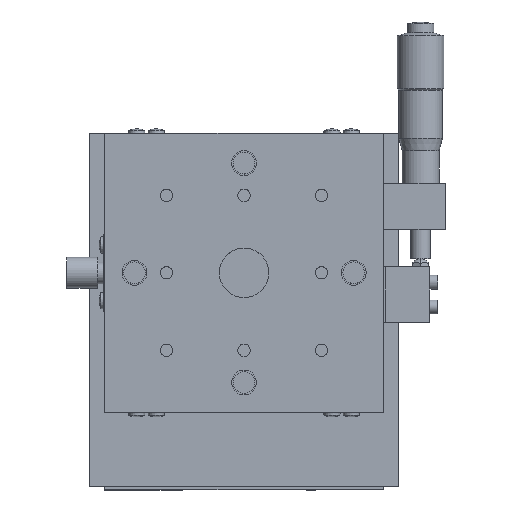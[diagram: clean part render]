
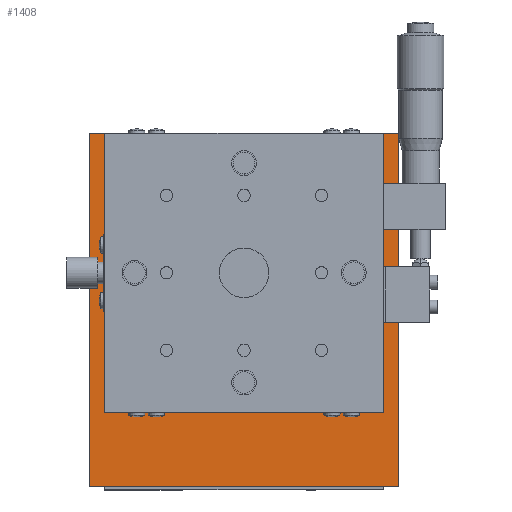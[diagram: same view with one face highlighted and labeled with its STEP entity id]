
A CAD part, top view. The second image highlights one B-rep face of the part: STEP entity #1408.
In plain terms, the highlighted planar face has unit normal (0, 0, 1).
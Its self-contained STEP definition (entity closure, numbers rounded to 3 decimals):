
#598 = VERTEX_POINT ( 'NONE', #5058 ) ;
#661 = EDGE_CURVE ( 'NONE', #1358, #598, #5205, .T. ) ;
#1355 = VERTEX_POINT ( 'NONE', #6495 ) ;
#1357 = EDGE_CURVE ( 'NONE', #1358, #1355, #6494, .T. ) ;
#1358 = VERTEX_POINT ( 'NONE', #6490 ) ;
#1408 = ADVANCED_FACE ( 'NONE', ( #6598 ), #6597, .F. ) ;
#1409 = EDGE_LOOP ( 'NONE', ( #1410, #1479, #1480, #1483, #1486, #1488, #1489, #1548 ) ) ;
#1410 = ORIENTED_EDGE ( 'NONE', *, *, #661, .F. ) ;
#1433 = VERTEX_POINT ( 'NONE', #6619 ) ;
#1435 = EDGE_CURVE ( 'NONE', #1436, #1433, #6618, .T. ) ;
#1436 = VERTEX_POINT ( 'NONE', #6614 ) ;
#1479 = ORIENTED_EDGE ( 'NONE', *, *, #1357, .T. ) ;
#1480 = ORIENTED_EDGE ( 'NONE', *, *, #1481, .T. ) ;
#1481 = EDGE_CURVE ( 'NONE', #1355, #1482, #6731, .T. ) ;
#1482 = VERTEX_POINT ( 'NONE', #6727 ) ;
#1483 = ORIENTED_EDGE ( 'NONE', *, *, #1484, .F. ) ;
#1484 = EDGE_CURVE ( 'NONE', #1485, #1482, #6726, .T. ) ;
#1485 = VERTEX_POINT ( 'NONE', #6722 ) ;
#1486 = ORIENTED_EDGE ( 'NONE', *, *, #1487, .F. ) ;
#1487 = EDGE_CURVE ( 'NONE', #1436, #1485, #6721, .T. ) ;
#1488 = ORIENTED_EDGE ( 'NONE', *, *, #1435, .T. ) ;
#1489 = ORIENTED_EDGE ( 'NONE', *, *, #1490, .F. ) ;
#1490 = EDGE_CURVE ( 'NONE', #1491, #1433, #6717, .T. ) ;
#1491 = VERTEX_POINT ( 'NONE', #6713 ) ;
#1548 = ORIENTED_EDGE ( 'NONE', *, *, #1549, .F. ) ;
#1549 = EDGE_CURVE ( 'NONE', #598, #1491, #6853, .T. ) ;
#5058 = CARTESIAN_POINT ( 'NONE',  ( -45., 25., 23.5 ) ) ;
#5202 = DIRECTION ( 'NONE',  ( 0., -1., 0. ) ) ;
#5203 = VECTOR ( 'NONE', #5202, 1000. ) ;
#5204 = CARTESIAN_POINT ( 'NONE',  ( -45., 115., 23.5 ) ) ;
#5205 = LINE ( 'NONE', #5204, #5203 ) ;
#6490 = CARTESIAN_POINT ( 'NONE',  ( -45., 115., 23.5 ) ) ;
#6491 = DIRECTION ( 'NONE',  ( -1., 0., 0. ) ) ;
#6492 = VECTOR ( 'NONE', #6491, 1000. ) ;
#6493 = CARTESIAN_POINT ( 'NONE',  ( 50., 115., 23.5 ) ) ;
#6494 = LINE ( 'NONE', #6493, #6492 ) ;
#6495 = CARTESIAN_POINT ( 'NONE',  ( -50., 115., 23.5 ) ) ;
#6593 = DIRECTION ( 'NONE',  ( 0., 1., 0. ) ) ;
#6594 = DIRECTION ( 'NONE',  ( 0., 0., -1. ) ) ;
#6595 = CARTESIAN_POINT ( 'NONE',  ( 50., 115., 23.5 ) ) ;
#6596 = AXIS2_PLACEMENT_3D ( 'NONE', #6595, #6594, #6593 ) ;
#6597 = PLANE ( 'NONE',  #6596 ) ;
#6598 = FACE_OUTER_BOUND ( 'NONE', #1409, .T. ) ;
#6614 = CARTESIAN_POINT ( 'NONE',  ( 50., 115., 23.5 ) ) ;
#6615 = DIRECTION ( 'NONE',  ( -1., 0., 0. ) ) ;
#6616 = VECTOR ( 'NONE', #6615, 1000. ) ;
#6617 = CARTESIAN_POINT ( 'NONE',  ( 50., 115., 23.5 ) ) ;
#6618 = LINE ( 'NONE', #6617, #6616 ) ;
#6619 = CARTESIAN_POINT ( 'NONE',  ( 45., 115., 23.5 ) ) ;
#6713 = CARTESIAN_POINT ( 'NONE',  ( 45., 25., 23.5 ) ) ;
#6714 = DIRECTION ( 'NONE',  ( 0., 1., 0. ) ) ;
#6715 = VECTOR ( 'NONE', #6714, 1000. ) ;
#6716 = CARTESIAN_POINT ( 'NONE',  ( 45., 115., 23.5 ) ) ;
#6717 = LINE ( 'NONE', #6716, #6715 ) ;
#6718 = DIRECTION ( 'NONE',  ( 0., -1., 0. ) ) ;
#6719 = VECTOR ( 'NONE', #6718, 1000. ) ;
#6720 = CARTESIAN_POINT ( 'NONE',  ( 50., 115., 23.5 ) ) ;
#6721 = LINE ( 'NONE', #6720, #6719 ) ;
#6722 = CARTESIAN_POINT ( 'NONE',  ( 50., 1., 23.5 ) ) ;
#6723 = DIRECTION ( 'NONE',  ( -1., 0., 0. ) ) ;
#6724 = VECTOR ( 'NONE', #6723, 1000. ) ;
#6725 = CARTESIAN_POINT ( 'NONE',  ( 50., 1., 23.5 ) ) ;
#6726 = LINE ( 'NONE', #6725, #6724 ) ;
#6727 = CARTESIAN_POINT ( 'NONE',  ( -50., 1., 23.5 ) ) ;
#6728 = DIRECTION ( 'NONE',  ( 0., -1., 0. ) ) ;
#6729 = VECTOR ( 'NONE', #6728, 1000. ) ;
#6730 = CARTESIAN_POINT ( 'NONE',  ( -50., 115., 23.5 ) ) ;
#6731 = LINE ( 'NONE', #6730, #6729 ) ;
#6850 = DIRECTION ( 'NONE',  ( 1., 0., 0. ) ) ;
#6851 = VECTOR ( 'NONE', #6850, 1000. ) ;
#6852 = CARTESIAN_POINT ( 'NONE',  ( -45., 25., 23.5 ) ) ;
#6853 = LINE ( 'NONE', #6852, #6851 ) ;
